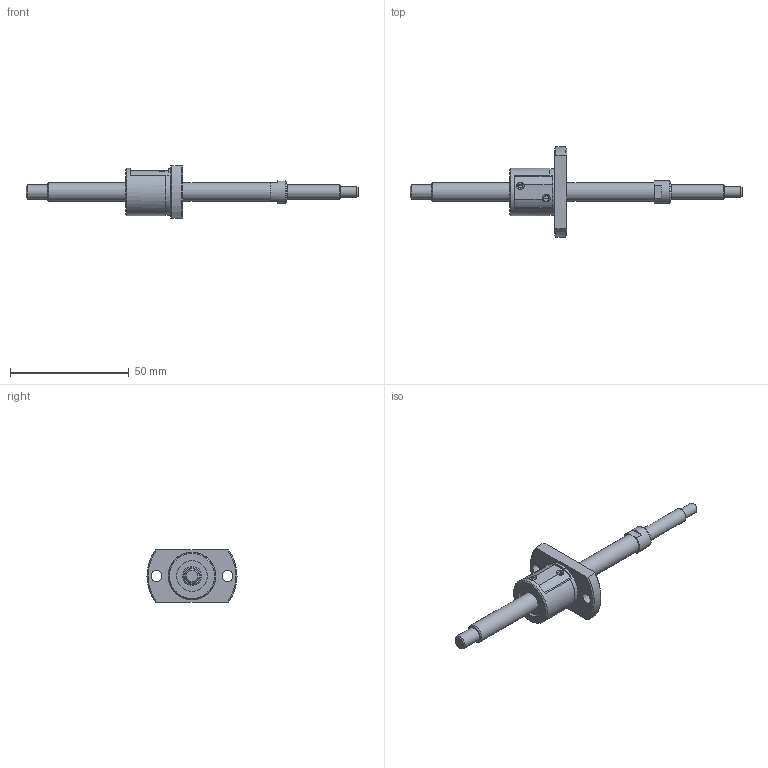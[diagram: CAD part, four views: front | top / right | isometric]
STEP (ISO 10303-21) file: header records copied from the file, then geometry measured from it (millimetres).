
FILE_DESCRIPTION(/* description */ ('STEP AP214'),/* implementation_level */ '2;1');
FILE_NAME(/* name */ 'SG0802-090R140C3C0X(33)',/* time_stamp */ '2026-07-21T16:44:38+02:00',/* author */ ('License CC BY-ND 4.0'),/* organization */ ('CADENAS'),/* preprocessor_version */ 'ST-DEVELOPER v20',/* originating_system */ 'PARTsolutions',/* authorisation */ ' ');
FILE_SCHEMA (('AUTOMOTIVE_DESIGN {1 0 10303 214 3 1 1}'));
Length unit declared in the file: millimetre
Products named in the file (3): SG0802-090R140C3C0X(33); SG0802-90R140C3C_shaft; SG0802_nut
Assembly tree (2 placements, depth 2):
  SG0802-090R140C3C0X(33)
    SG0802-90R140C3C_shaft
    SG0802_nut
Bounding box: 140 x 38 x 22 mm (x, y, z)
Volume: 14383.2 mm3; surface area: 7305.3 mm2
Topology: 2 solids, 2 shells, 75 faces, 181 edges, 118 vertices
Faces by surface type: plane 36, cylinder 24, cone 14, torus 1
Full cylindrical faces by diameter (mm): 4.5 x3, 6 x2, 8 x2, 9.5 x1, 13 x2, 19.7 x1, 20 x1
Entity records: 2117 total; most frequent: CARTESIAN_POINT 396, DIRECTION 358, ORIENTED_EDGE 298, EDGE_CURVE 149, AXIS2_PLACEMENT_3D 149, EDGE_LOOP 112, FACE_BOUND 112, VERTEX_POINT 109
